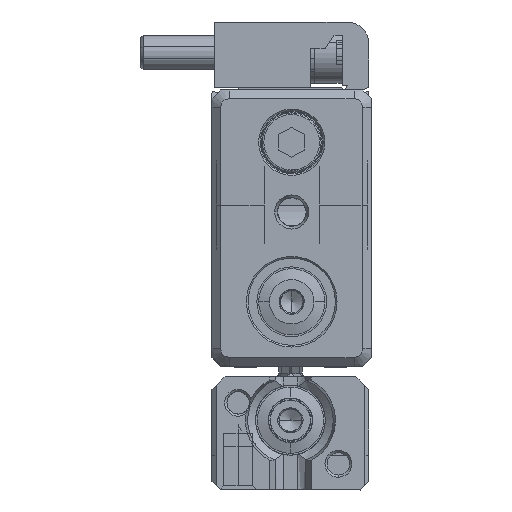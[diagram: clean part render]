
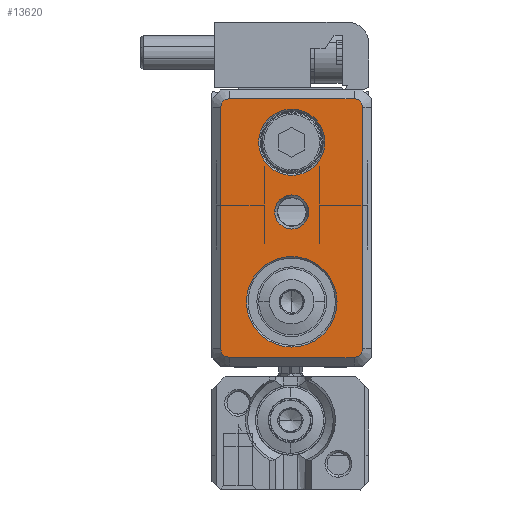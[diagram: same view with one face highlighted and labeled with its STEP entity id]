
A CAD part, left-side view. The second image highlights one B-rep face of the part: STEP entity #13620.
In plain terms, the highlighted planar face has unit normal (-1, 0, 0).
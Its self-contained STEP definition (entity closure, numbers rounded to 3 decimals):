
#11510=CARTESIAN_POINT('',(-93.638,46.3,
-79.283));
#11520=VERTEX_POINT('',#11510);
#11550=CARTESIAN_POINT('',(-93.638,45.3,
-79.283));
#11560=DIRECTION('',(1.,0.,0.));
#11570=DIRECTION('',(0.,1.,0.));
#11580=AXIS2_PLACEMENT_3D('',#11550,#11560,#11570);
#11590=CIRCLE('',#11580,1.);
#11600=CARTESIAN_POINT('',(-93.638,45.3,
-80.283));
#11610=VERTEX_POINT('',#11600);
#11620=EDGE_CURVE('',#11610,#11520,#11590,.T.);
#12520=CARTESIAN_POINT('',(-93.638,38.15,
-65.583));
#12530=DIRECTION('',(1.,0.,0.));
#12540=DIRECTION('',(0.,1.,0.));
#12550=AXIS2_PLACEMENT_3D('',#12520,#12530,#12540);
#12560=PLANE('',#12550);
#12570=CARTESIAN_POINT('',(-93.638,38.15,
-56.983));
#12580=DIRECTION('',(1.,0.,0.));
#12590=DIRECTION('',(0.,-1.,0.));
#12600=AXIS2_PLACEMENT_3D('',#12570,#12580,#12590);
#12610=CIRCLE('',#12600,5.2);
#12620=CARTESIAN_POINT('',(-93.638,32.95,
-56.983));
#12630=VERTEX_POINT('',#12620);
#12640=CARTESIAN_POINT('',(-93.638,43.35,
-56.983));
#12650=VERTEX_POINT('',#12640);
#12660=EDGE_CURVE('',#12630,#12650,#12610,.T.);
#12670=ORIENTED_EDGE('',*,*,#12660,.T.);
#12680=EDGE_CURVE('',#12650,#12630,#12610,.T.);
#12690=ORIENTED_EDGE('',*,*,#12680,.T.);
#12700=EDGE_LOOP('',(#12690,#12670));
#12710=FACE_BOUND('',#12700,.T.);
#12720=CARTESIAN_POINT('',(-93.638,38.15,
-75.283));
#12730=DIRECTION('',(-1.,0.,0.));
#12740=DIRECTION('',(0.,1.,0.));
#12750=AXIS2_PLACEMENT_3D('',#12720,#12730,#12740);
#12760=CIRCLE('',#12750,3.8);
#12770=CARTESIAN_POINT('',(-93.638,34.35,
-75.283));
#12780=VERTEX_POINT('',#12770);
#12790=CARTESIAN_POINT('',(-93.638,41.95,
-75.283));
#12800=VERTEX_POINT('',#12790);
#12810=EDGE_CURVE('',#12780,#12800,#12760,.T.);
#12820=ORIENTED_EDGE('',*,*,#12810,.F.);
#12830=EDGE_CURVE('',#12800,#12780,#12760,.T.);
#12840=ORIENTED_EDGE('',*,*,#12830,.F.);
#12850=EDGE_LOOP('',(#12840,#12820));
#12860=FACE_BOUND('',#12850,.T.);
#12870=CARTESIAN_POINT('',(-93.638,38.15,
-67.283));
#12880=DIRECTION('',(-1.,0.,0.));
#12890=DIRECTION('',(0.,1.,0.));
#12900=AXIS2_PLACEMENT_3D('',#12870,#12880,#12890);
#12910=CIRCLE('',#12900,1.961);
#12920=CARTESIAN_POINT('',(-93.638,40.111,
-67.283));
#12930=VERTEX_POINT('',#12920);
#12940=CARTESIAN_POINT('',(-93.638,36.189,
-67.283));
#12950=VERTEX_POINT('',#12940);
#12960=EDGE_CURVE('',#12930,#12950,#12910,.T.);
#12970=ORIENTED_EDGE('',*,*,#12960,.F.);
#12980=EDGE_CURVE('',#12950,#12930,#12910,.T.);
#12990=ORIENTED_EDGE('',*,*,#12980,.F.);
#13000=EDGE_LOOP('',(#12990,#12970));
#13010=FACE_BOUND('',#13000,.T.);
#13020=CARTESIAN_POINT('',(-93.638,30.,
-49.133));
#13030=DIRECTION('',(0.,0.,1.));
#13040=VECTOR('',#13030,1.);
#13050=LINE('',#13020,#13040);
#13060=CARTESIAN_POINT('',(-93.638,30.,
-79.283));
#13070=VERTEX_POINT('',#13060);
#13080=CARTESIAN_POINT('',(-93.638,30.,
-51.583));
#13090=VERTEX_POINT('',#13080);
#13100=EDGE_CURVE('',#13070,#13090,#13050,.T.);
#13110=ORIENTED_EDGE('',*,*,#13100,.T.);
#13120=CARTESIAN_POINT('',(-93.638,31.,
-79.283));
#13130=DIRECTION('',(1.,0.,0.));
#13140=DIRECTION('',(0.,1.,0.));
#13150=AXIS2_PLACEMENT_3D('',#13120,#13130,#13140);
#13160=CIRCLE('',#13150,1.);
#13170=CARTESIAN_POINT('',(-93.638,31.,
-80.283));
#13180=VERTEX_POINT('',#13170);
#13190=EDGE_CURVE('',#13070,#13180,#13160,.T.);
#13200=ORIENTED_EDGE('',*,*,#13190,.F.);
#13210=CARTESIAN_POINT('',(-93.638,46.9,
-80.283));
#13220=DIRECTION('',(0.,-1.,0.));
#13230=VECTOR('',#13220,1.);
#13240=LINE('',#13210,#13230);
#13250=EDGE_CURVE('',#11610,#13180,#13240,.T.);
#13260=ORIENTED_EDGE('',*,*,#13250,.T.);
#13270=ORIENTED_EDGE('',*,*,#11620,.F.);
#13280=CARTESIAN_POINT('',(-93.638,46.3,
-49.133));
#13290=DIRECTION('',(0.,0.,-1.));
#13300=VECTOR('',#13290,1.);
#13310=LINE('',#13280,#13300);
#13320=CARTESIAN_POINT('',(-93.638,46.3,
-51.583));
#13330=VERTEX_POINT('',#13320);
#13340=EDGE_CURVE('',#13330,#11520,#13310,.T.);
#13350=ORIENTED_EDGE('',*,*,#13340,.T.);
#13360=CARTESIAN_POINT('',(-93.638,45.3,
-51.583));
#13370=DIRECTION('',(1.,0.,0.));
#13380=DIRECTION('',(0.,1.,0.));
#13390=AXIS2_PLACEMENT_3D('',#13360,#13370,#13380);
#13400=CIRCLE('',#13390,1.);
#13410=CARTESIAN_POINT('',(-93.638,45.3,
-50.583));
#13420=VERTEX_POINT('',#13410);
#13430=EDGE_CURVE('',#13330,#13420,#13400,.T.);
#13440=ORIENTED_EDGE('',*,*,#13430,.F.);
#13450=CARTESIAN_POINT('',(-93.638,46.9,
-50.583));
#13460=DIRECTION('',(0.,1.,0.));
#13470=VECTOR('',#13460,1.);
#13480=LINE('',#13450,#13470);
#13490=CARTESIAN_POINT('',(-93.638,31.,
-50.583));
#13500=VERTEX_POINT('',#13490);
#13510=EDGE_CURVE('',#13500,#13420,#13480,.T.);
#13520=ORIENTED_EDGE('',*,*,#13510,.T.);
#13530=CARTESIAN_POINT('',(-93.638,31.,
-51.583));
#13540=DIRECTION('',(1.,0.,0.));
#13550=DIRECTION('',(0.,1.,0.));
#13560=AXIS2_PLACEMENT_3D('',#13530,#13540,#13550);
#13570=CIRCLE('',#13560,1.);
#13580=EDGE_CURVE('',#13500,#13090,#13570,.T.);
#13590=ORIENTED_EDGE('',*,*,#13580,.F.);
#13600=EDGE_LOOP('',(#13590,#13520,#13440,#13350,#13270,#13260,#13200,
#13110));
#13610=FACE_OUTER_BOUND('',#13600,.T.);
#13620=ADVANCED_FACE('',(#12710,#12860,#13010,#13610),#12560,.F.);
